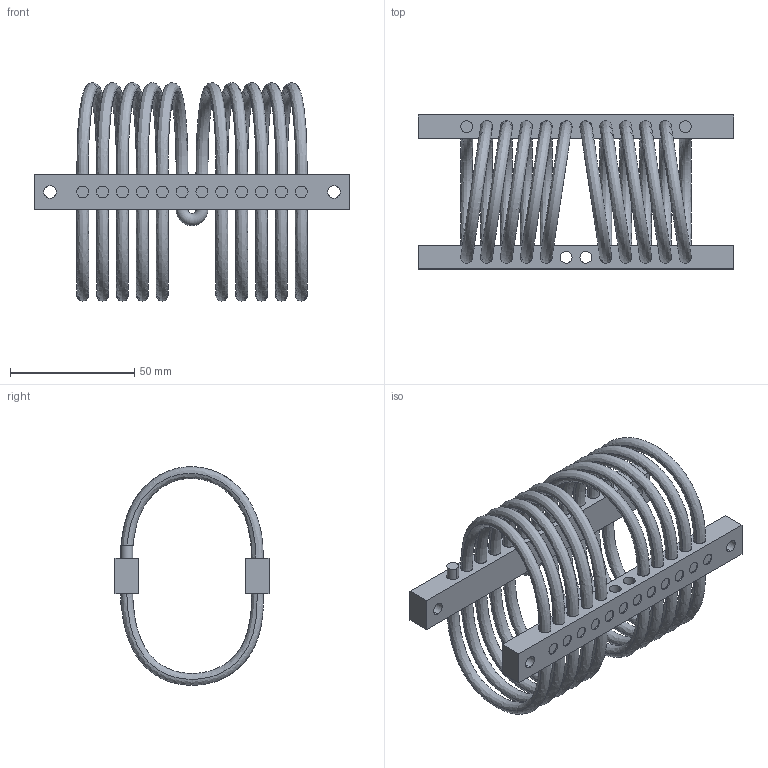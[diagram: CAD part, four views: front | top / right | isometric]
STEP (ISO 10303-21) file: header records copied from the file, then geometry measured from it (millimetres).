
FILE_DESCRIPTION (( 'STEP AP214' ), '1' );
FILE_NAME ('WR6-900-10DM.STEP', '2018-12-07T09:56:17', ( 'user' ), ( 'Microsoft' ), 'SwSTEP 2.0', 'SolidWorks 2016', '' );
FILE_SCHEMA (( 'AUTOMOTIVE_DESIGN' ));
Length unit declared in the file: millimetre
Products named in the file (1): WR6-900-10DM
Bounding box: 127 x 62 x 87.97 mm (x, y, z)
Volume: 68848.3 mm3; surface area: 52993.5 mm2
Topology: 25 solids, 25 shells, 316 faces, 702 edges, 460 vertices
Faces by surface type: cylinder 192, plane 82, bspline 40, torus 2
Entity records: 23030 total; most frequent: CARTESIAN_POINT 15759, ORIENTED_EDGE 1404, DIRECTION 1382, EDGE_CURVE 702, AXIS2_PLACEMENT_3D 583, VERTEX_POINT 460, EDGE_LOOP 396, ADVANCED_FACE 316
